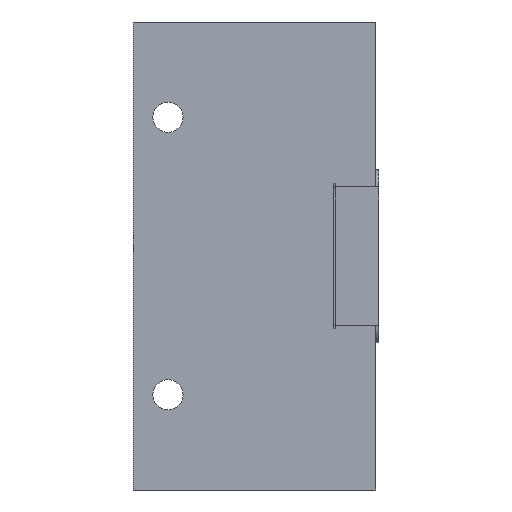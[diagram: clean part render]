
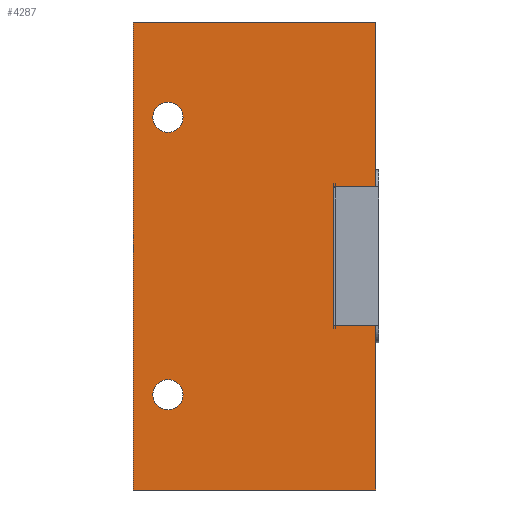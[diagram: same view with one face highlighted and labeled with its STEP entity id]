
A CAD part, front view. The second image highlights one B-rep face of the part: STEP entity #4287.
In plain terms, the highlighted planar face has unit normal (0, -1, 0).
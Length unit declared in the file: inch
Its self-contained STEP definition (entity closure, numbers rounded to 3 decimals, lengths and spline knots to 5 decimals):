
#133=LINE('',#6325,#369);
#134=LINE('',#6331,#370);
#141=LINE('',#6354,#377);
#143=LINE('',#6358,#379);
#144=LINE('',#6360,#380);
#145=LINE('',#6362,#381);
#146=LINE('',#6364,#382);
#147=LINE('',#6365,#383);
#369=VECTOR('',#5068,0.309);
#370=VECTOR('',#5073,0.309);
#377=VECTOR('',#5098,1.005);
#379=VECTOR('',#5102,1.185);
#380=VECTOR('',#5103,1.75);
#381=VECTOR('',#5104,3.375);
#382=VECTOR('',#5105,1.75);
#383=VECTOR('',#5106,1.185);
#604=PLANE('',#4603);
#734=CIRCLE('',#4604,0.109);
#735=CIRCLE('',#4605,0.109);
#940=FACE_BOUND('',#1433,.T.);
#941=FACE_BOUND('',#1434,.T.);
#1163=FACE_OUTER_BOUND('',#1432,.T.);
#1432=EDGE_LOOP('',(#3005,#3006,#3007,#3008,#3009,#3010,#3011,#3012));
#1433=EDGE_LOOP('',(#3013));
#1434=EDGE_LOOP('',(#3014));
#2009=VERTEX_POINT('',#6321);
#2010=VERTEX_POINT('',#6323);
#2011=VERTEX_POINT('',#6327);
#2013=VERTEX_POINT('',#6330);
#2021=VERTEX_POINT('',#6357);
#2022=VERTEX_POINT('',#6359);
#2023=VERTEX_POINT('',#6361);
#2024=VERTEX_POINT('',#6363);
#2025=VERTEX_POINT('',#6366);
#2026=VERTEX_POINT('',#6368);
#2424=EDGE_CURVE('',#2010,#2009,#133,.T.);
#2426=EDGE_CURVE('',#2013,#2011,#134,.T.);
#2438=EDGE_CURVE('',#2011,#2009,#141,.T.);
#2440=EDGE_CURVE('',#2021,#2010,#143,.T.);
#2441=EDGE_CURVE('',#2021,#2022,#144,.T.);
#2442=EDGE_CURVE('',#2022,#2023,#145,.T.);
#2443=EDGE_CURVE('',#2023,#2024,#146,.T.);
#2444=EDGE_CURVE('',#2013,#2024,#147,.T.);
#2445=EDGE_CURVE('',#2025,#2025,#734,.T.);
#2446=EDGE_CURVE('',#2026,#2026,#735,.T.);
#3005=ORIENTED_EDGE('',*,*,#2426,.T.);
#3006=ORIENTED_EDGE('',*,*,#2438,.T.);
#3007=ORIENTED_EDGE('',*,*,#2424,.F.);
#3008=ORIENTED_EDGE('',*,*,#2440,.F.);
#3009=ORIENTED_EDGE('',*,*,#2441,.T.);
#3010=ORIENTED_EDGE('',*,*,#2442,.T.);
#3011=ORIENTED_EDGE('',*,*,#2443,.T.);
#3012=ORIENTED_EDGE('',*,*,#2444,.F.);
#3013=ORIENTED_EDGE('',*,*,#2445,.T.);
#3014=ORIENTED_EDGE('',*,*,#2446,.T.);
#4287=ADVANCED_FACE('',(#1163,#940,#941),#604,.T.);
#4603=AXIS2_PLACEMENT_3D('',#6356,#5100,#5101);
#4604=AXIS2_PLACEMENT_3D('',#6367,#5107,#5108);
#4605=AXIS2_PLACEMENT_3D('',#6369,#5109,#5110);
#5068=DIRECTION('',(-1.,0.,0.));
#5073=DIRECTION('',(-1.,0.,0.));
#5098=DIRECTION('',(0.,0.,1.));
#5100=DIRECTION('center_axis',(0.,-1.,0.));
#5101=DIRECTION('ref_axis',(0.,0.,-1.));
#5102=DIRECTION('',(0.,0.,-1.));
#5103=DIRECTION('',(-1.,0.,0.));
#5104=DIRECTION('',(0.,0.,-1.));
#5105=DIRECTION('',(1.,0.,0.));
#5106=DIRECTION('',(0.,0.,-1.));
#5107=DIRECTION('center_axis',(0.,1.,0.));
#5108=DIRECTION('ref_axis',(1.,0.,0.));
#5109=DIRECTION('center_axis',(0.,1.,0.));
#5110=DIRECTION('ref_axis',(1.,0.,0.));
#6321=CARTESIAN_POINT('',(0.566,-0.5,0.5025));
#6323=CARTESIAN_POINT('',(0.875,-0.5,0.5025));
#6325=CARTESIAN_POINT('',(0.875,-0.5,0.5025));
#6327=CARTESIAN_POINT('',(0.566,-0.5,-0.5025));
#6330=CARTESIAN_POINT('',(0.875,-0.5,-0.5025));
#6331=CARTESIAN_POINT('',(0.875,-0.5,-0.5025));
#6354=CARTESIAN_POINT('',(0.566,-0.5,0.));
#6356=CARTESIAN_POINT('Origin',(0.875,-0.5,0.));
#6357=CARTESIAN_POINT('',(0.875,-0.5,1.6875));
#6358=CARTESIAN_POINT('',(0.875,-0.5,0.));
#6359=CARTESIAN_POINT('',(-0.875,-0.5,1.6875));
#6360=CARTESIAN_POINT('',(0.875,-0.5,1.6875));
#6361=CARTESIAN_POINT('',(-0.875,-0.5,-1.6875));
#6362=CARTESIAN_POINT('',(-0.875,-0.5,0.));
#6363=CARTESIAN_POINT('',(0.875,-0.5,-1.6875));
#6364=CARTESIAN_POINT('',(0.875,-0.5,-1.6875));
#6365=CARTESIAN_POINT('',(0.875,-0.5,0.));
#6366=CARTESIAN_POINT('',(-0.734,-0.5,-1.));
#6367=CARTESIAN_POINT('Origin',(-0.625,-0.5,-1.));
#6368=CARTESIAN_POINT('',(-0.734,-0.5,1.));
#6369=CARTESIAN_POINT('Origin',(-0.625,-0.5,1.));
